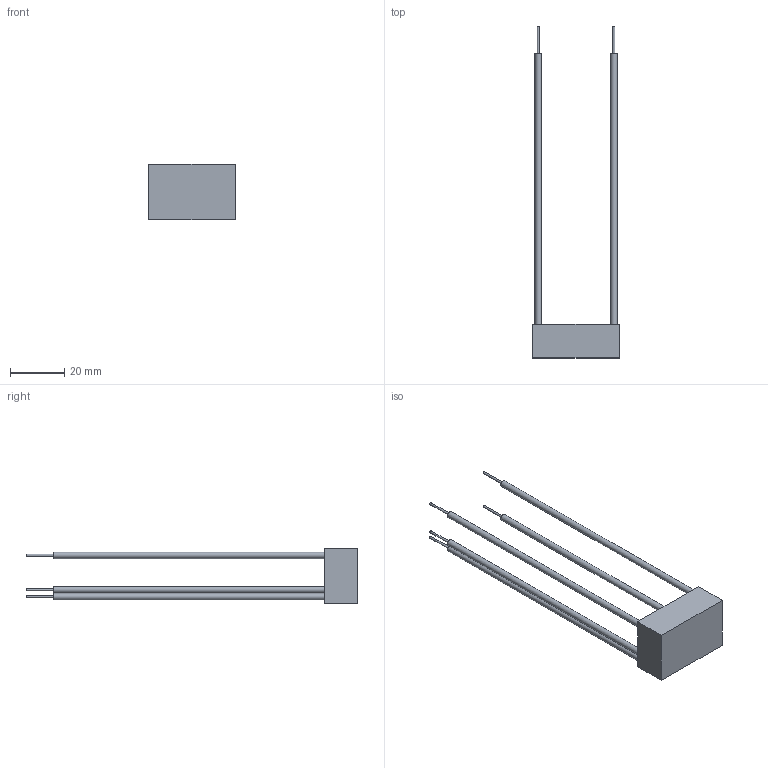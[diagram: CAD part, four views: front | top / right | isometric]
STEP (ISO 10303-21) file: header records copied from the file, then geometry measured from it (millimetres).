
FILE_DESCRIPTION(/* description */ ('Unknown'),/* implementation_level */ '2;1');
FILE_NAME(/* name */ 'LDU56(WD)',/* time_stamp */ '2017-11-30T16:33:06+08:00',/* author */ ('Unknown'),/* organization */ ('Unknown'),/* preprocessor_version */ 'ST-DEVELOPER v16.7',/* originating_system */ 'DEX',/* authorisation */ $);
FILE_SCHEMA (('AUTOMOTIVE_DESIGN {1 0 10303 214 3 1 1}'));
Length unit declared in the file: millimetre
Products named in the file (1): LDU56(WD)
Bounding box: 31.75 x 122.45 x 20.32 mm (x, y, z)
Volume: 10319.3 mm3; surface area: 6482.4 mm2
Topology: 1 solids, 1 shells, 26 faces, 42 edges, 28 vertices
Faces by surface type: plane 16, cylinder 10
Full cylindrical faces by diameter (mm): 0.8 x5, 2.4 x5
Entity records: 586 total; most frequent: DIRECTION 106, CARTESIAN_POINT 87, ORIENTED_EDGE 64, AXIS2_PLACEMENT_3D 47, EDGE_LOOP 46, FACE_BOUND 46, EDGE_CURVE 32, VERTEX_POINT 28
